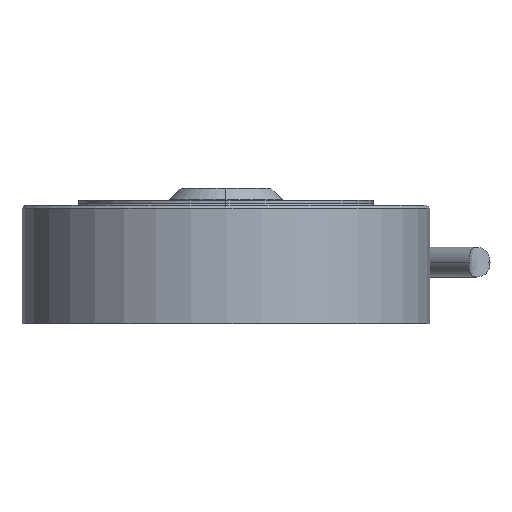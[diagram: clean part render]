
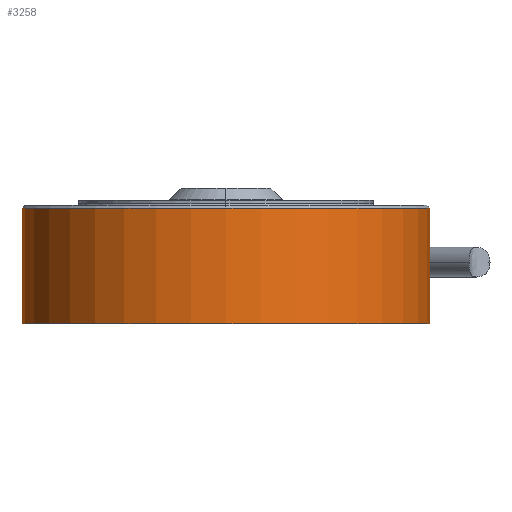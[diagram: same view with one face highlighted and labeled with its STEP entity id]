
A CAD part, left-side view. The second image highlights one B-rep face of the part: STEP entity #3258.
In plain terms, the highlighted cylindrical face has radius 52.375 mm (diameter 104.75 mm), a partial arc.
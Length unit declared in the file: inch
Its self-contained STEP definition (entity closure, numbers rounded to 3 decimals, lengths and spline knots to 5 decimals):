
#249 = VERTEX_POINT ( 'NONE', #2451 ) ;
#279 = EDGE_CURVE ( 'NONE', #383, #249, #2591, .T. ) ;
#383 = VERTEX_POINT ( 'NONE', #3029 ) ;
#509 = ORIENTED_EDGE ( 'NONE', *, *, #1133, .T. ) ;
#1133 = EDGE_CURVE ( 'NONE', #6469, #249, #6376, .T. ) ;
#1395 = EDGE_CURVE ( 'NONE', #383, #1634, #2301, .T. ) ;
#1634 = VERTEX_POINT ( 'NONE', #3335 ) ;
#1665 = EDGE_CURVE ( 'NONE', #1634, #5372, #3413, .T. ) ;
#1734 = ORIENTED_EDGE ( 'NONE', *, *, #5597, .T. ) ;
#1822 = ORIENTED_EDGE ( 'NONE', *, *, #1665, .T. ) ;
#1995 = ORIENTED_EDGE ( 'NONE', *, *, #1395, .T. ) ;
#2301 = CIRCLE ( 'NONE', #2302, 2.062 ) ;
#2302 = AXIS2_PLACEMENT_3D ( 'NONE', #2303, #2304, #2305 ) ;
#2303 = CARTESIAN_POINT ( 'NONE',  ( 0., 0., -0.08 ) ) ;
#2304 = DIRECTION ( 'NONE',  ( 0., 0., -1. ) ) ;
#2305 = DIRECTION ( 'NONE',  ( 0., 1., 0. ) ) ;
#2451 = CARTESIAN_POINT ( 'NONE',  ( 0., -2.062, -1.25 ) ) ;
#2509 = ORIENTED_EDGE ( 'NONE', *, *, #279, .F. ) ;
#2591 = LINE ( 'NONE', #2592, #2593 ) ;
#2592 = CARTESIAN_POINT ( 'NONE',  ( 0., -2.062, -0.08 ) ) ;
#2593 = VECTOR ( 'NONE', #2594, 39.37008 ) ;
#2594 = DIRECTION ( 'NONE',  ( 0., 0., -1. ) ) ;
#3020 = EDGE_LOOP ( 'NONE', ( #2509, #1995, #1822, #1734, #509 ) ) ;
#3029 = CARTESIAN_POINT ( 'NONE',  ( 0., -2.062, -0.08 ) ) ;
#3258 = ADVANCED_FACE ( 'NONE', ( #5350 ), #5351, .T. ) ;
#3335 = CARTESIAN_POINT ( 'NONE',  ( -2.062, 0., -0.08 ) ) ;
#3413 = CIRCLE ( 'NONE', #3414, 2.062 ) ;
#3414 = AXIS2_PLACEMENT_3D ( 'NONE', #3415, #3416, #3417 ) ;
#3415 = CARTESIAN_POINT ( 'NONE',  ( 0., 0., -0.08 ) ) ;
#3416 = DIRECTION ( 'NONE',  ( 0., 0., -1. ) ) ;
#3417 = DIRECTION ( 'NONE',  ( 0., 1., 0. ) ) ;
#4493 = CARTESIAN_POINT ( 'NONE',  ( 0., 2.062, -1.25 ) ) ;
#5350 = FACE_OUTER_BOUND ( 'NONE', #3020, .T. ) ;
#5351 = CYLINDRICAL_SURFACE ( 'NONE', #5352, 2.062 ) ;
#5352 = AXIS2_PLACEMENT_3D ( 'NONE', #5353, #5356, #5357 ) ;
#5353 = CARTESIAN_POINT ( 'NONE',  ( 0., 0., -0.08 ) ) ;
#5356 = DIRECTION ( 'NONE',  ( 0., 0., -1. ) ) ;
#5357 = DIRECTION ( 'NONE',  ( 0., 1., 0. ) ) ;
#5372 = VERTEX_POINT ( 'NONE', #6341 ) ;
#5597 = EDGE_CURVE ( 'NONE', #5372, #6469, #6529, .T. ) ;
#6341 = CARTESIAN_POINT ( 'NONE',  ( 0., 2.062, -0.08 ) ) ;
#6376 = CIRCLE ( 'NONE', #6377, 2.062 ) ;
#6377 = AXIS2_PLACEMENT_3D ( 'NONE', #6378, #6380, #6381 ) ;
#6378 = CARTESIAN_POINT ( 'NONE',  ( 0., 0., -1.25 ) ) ;
#6380 = DIRECTION ( 'NONE',  ( 0., 0., 1. ) ) ;
#6381 = DIRECTION ( 'NONE',  ( 0., 1., 0. ) ) ;
#6469 = VERTEX_POINT ( 'NONE', #4493 ) ;
#6529 = LINE ( 'NONE', #6530, #6531 ) ;
#6530 = CARTESIAN_POINT ( 'NONE',  ( 0., 2.062, -0.08 ) ) ;
#6531 = VECTOR ( 'NONE', #6532, 39.37008 ) ;
#6532 = DIRECTION ( 'NONE',  ( 0., 0., -1. ) ) ;
